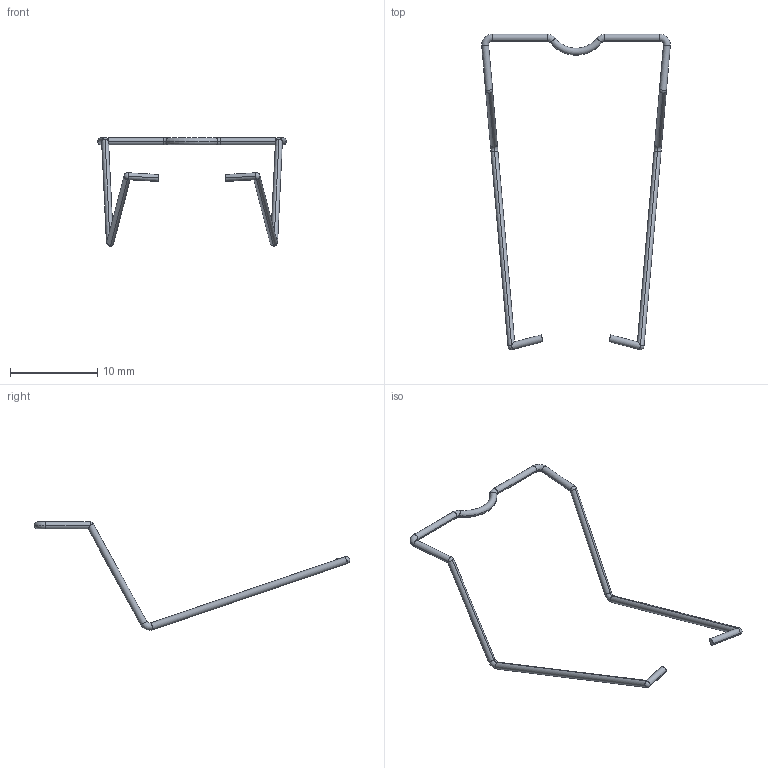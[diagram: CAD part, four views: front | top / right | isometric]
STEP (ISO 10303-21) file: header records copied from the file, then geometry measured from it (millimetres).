
FILE_DESCRIPTION (( 'STEP AP214' ), '1' );
FILE_NAME ('SK36M ¿¨»É.STEP', '2024-10-23T03:40:18', ( 'admin' ), ( '' ), 'SwSTEP 2.0', 'SolidWorks 2022', '' );
FILE_SCHEMA (( 'AUTOMOTIVE_DESIGN' ));
Length unit declared in the file: millimetre
Products named in the file (1): SK36M 縐銅
Bounding box: 21.65 x 36.19 x 12.43 mm (x, y, z)
Volume: 58 mm3; surface area: 290.8 mm2
Topology: 1 solids, 1 shells, 40 faces, 100 edges, 60 vertices
Faces by surface type: cylinder 20, torus 14, sphere 4, plane 2
Entity records: 1196 total; most frequent: DIRECTION 230, CARTESIAN_POINT 221, ORIENTED_EDGE 188, AXIS2_PLACEMENT_3D 105, EDGE_CURVE 94, CIRCLE 64, VERTEX_POINT 56, EDGE_LOOP 40
